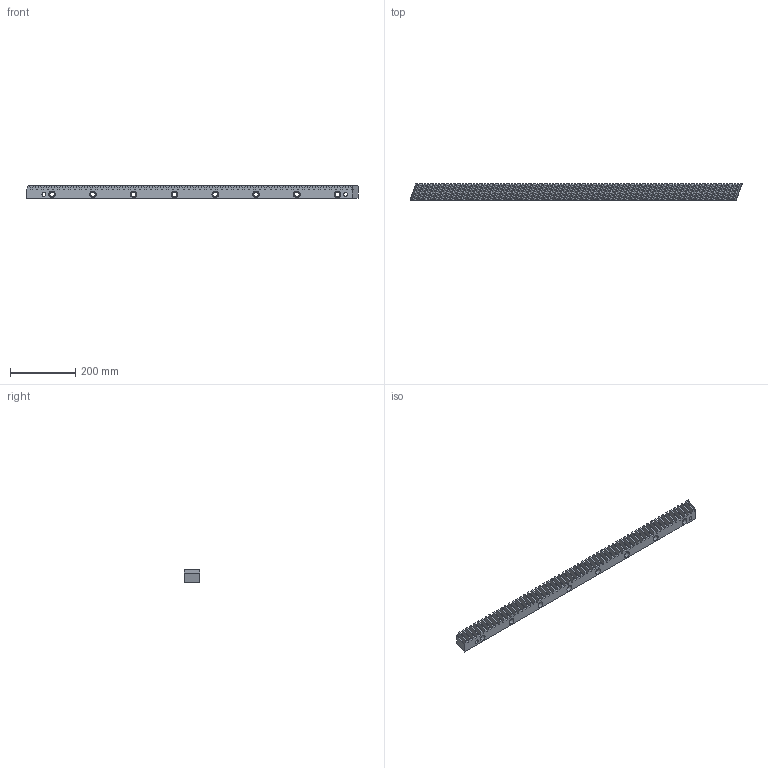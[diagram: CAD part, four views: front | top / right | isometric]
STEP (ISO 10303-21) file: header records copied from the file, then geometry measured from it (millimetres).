
FILE_DESCRIPTION (( 'STEP AP203' ), '1' );
FILE_NAME ('FX2 33 161 211.STEP', '2023-04-06T06:23:51', ( '' ), ( '' ), 'SwSTEP 2.0', 'SolidWorks 2010', '' );
FILE_SCHEMA (( 'CONFIG_CONTROL_DESIGN' ));
Products named in the file (1): FX2 33 161 211
Bounding box: 1017.35 x 49 x 39 mm (x, y, z)
Volume: 1545182.7 mm3; surface area: 237314.3 mm2
Topology: 1 solids, 1 shells, 1397 faces, 3912 edges, 2608 vertices
Faces by surface type: plane 991, bspline 370, cylinder 36
Entity records: 71031 total; most frequent: CARTESIAN_POINT 37384, ORIENTED_EDGE 7824, DIRECTION 5300, EDGE_CURVE 3912, LINE 3100, VECTOR 3100, VERTEX_POINT 2608, EDGE_LOOP 1508
